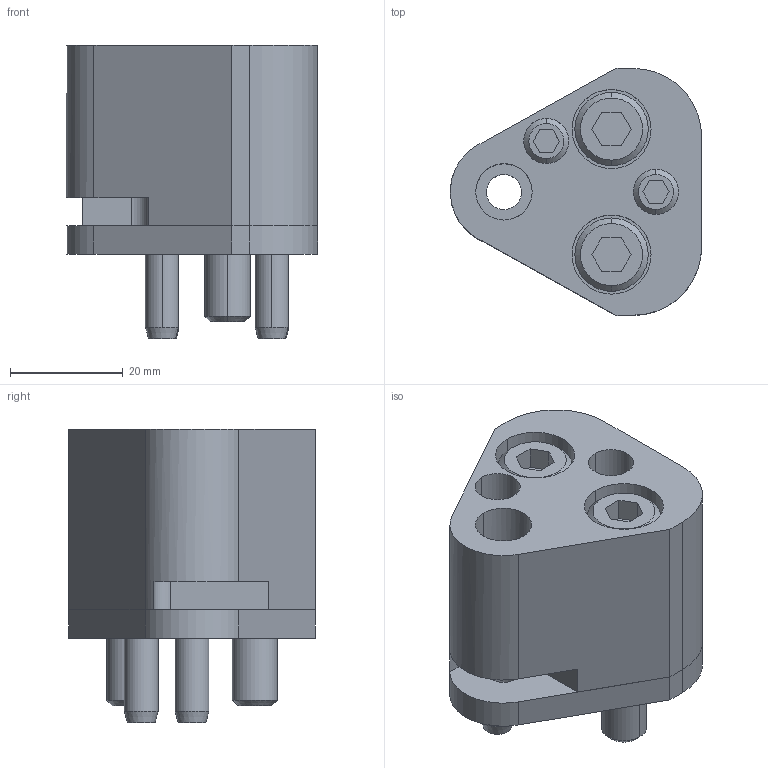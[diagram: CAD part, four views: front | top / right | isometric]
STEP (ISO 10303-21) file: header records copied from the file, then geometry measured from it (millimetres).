
FILE_DESCRIPTION(/* description */ (''),/* implementation_level */ '2;1');
FILE_NAME(/* name */ '3d_crn-fp10_03650_r00.stp',/* time_stamp */ '2011-01-10T14:16:21+09:00',/* author */ ('MISUMI'),/* organization */ (''),/* preprocessor_version */ 'ST-DEVELOPER v11',/* originating_system */ 'UGS - NX 5.0',/* authorisation */ '');
FILE_SCHEMA (('CONFIG_CONTROL_DESIGN'));
Length unit declared in the file: millimetre
Products named in the file (1): 3d_crn-fp10_03650_r00
Bounding box: 44.49 x 43.7 x 52 mm (x, y, z)
Volume: 46730 mm3; surface area: 20084.4 mm2
Topology: 8 solids, 8 shells, 156 faces, 358 edges, 231 vertices
Faces by surface type: plane 69, cylinder 61, cone 26
Entity records: 4585 total; most frequent: DIRECTION 815, CARTESIAN_POINT 805, ORIENTED_EDGE 716, EDGE_CURVE 358, AXIS2_PLACEMENT_3D 307, VERTEX_POINT 231, LINE 201, VECTOR 201
